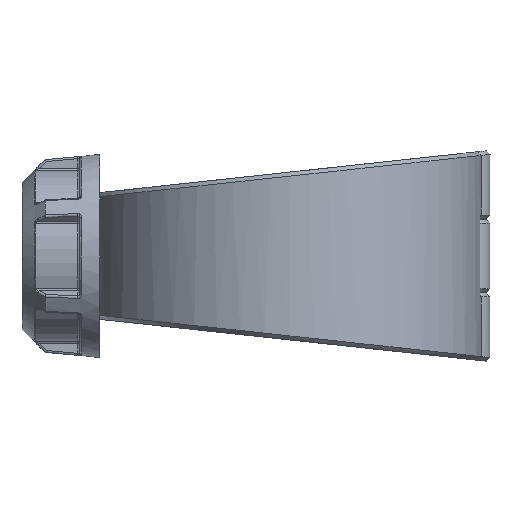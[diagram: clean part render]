
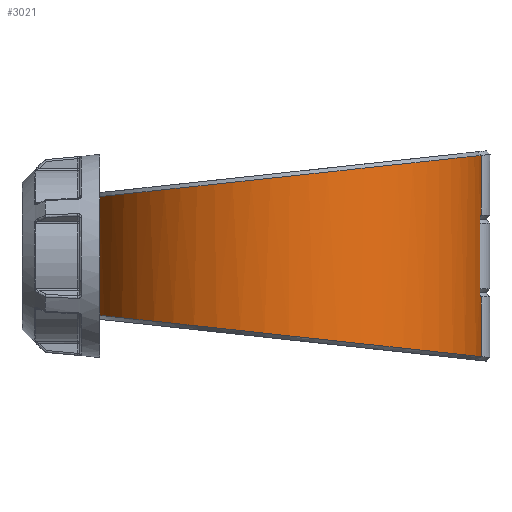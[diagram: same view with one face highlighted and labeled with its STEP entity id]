
A CAD part, left-side view. The second image highlights one B-rep face of the part: STEP entity #3021.
In plain terms, the highlighted cylindrical face has radius 98.5 mm (diameter 197 mm), a partial arc.
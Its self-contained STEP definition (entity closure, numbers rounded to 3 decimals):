
#212=FACE_OUTER_BOUND('',#416,.T.);
#416=EDGE_LOOP('',(#2055,#2056,#2057,#2058,#2059,#2060,#2061,#2062,#2063,
#2064,#2065,#2066));
#623=CIRCLE('',#3251,98.5);
#626=CIRCLE('',#3256,98.5);
#805=B_SPLINE_CURVE_WITH_KNOTS('',3,(#4512,#4513,#4514,#4515),
 .UNSPECIFIED.,.F.,.F.,(4,4),(-0.001,0.),.UNSPECIFIED.);
#806=B_SPLINE_CURVE_WITH_KNOTS('',3,(#4517,#4518,#4519,#4520),
 .UNSPECIFIED.,.F.,.F.,(4,4),(-3.051,-3.051),
 .UNSPECIFIED.);
#807=B_SPLINE_CURVE_WITH_KNOTS('',3,(#4521,#4522,#4523,#4524,#4525,#4526,
#4527,#4528,#4529,#4530),.UNSPECIFIED.,.F.,.F.,(4,1,1,1,1,1,1,4),(0.317,
0.649,1.051,1.453,1.855,2.257,
2.659,3.051),.UNSPECIFIED.);
#808=B_SPLINE_CURVE_WITH_KNOTS('',3,(#4532,#4533,#4534,#4535,#4536,#4537,
#4538,#4539,#4540,#4541),.UNSPECIFIED.,.F.,.F.,(4,1,1,1,1,1,1,4),(-3.051,
-2.659,-2.257,-1.855,-1.453,
-1.051,-0.649,-0.317),.UNSPECIFIED.);
#809=B_SPLINE_CURVE_WITH_KNOTS('',3,(#4543,#4544,#4545,#4546),
 .UNSPECIFIED.,.F.,.F.,(4,4),(3.051,3.051),
 .UNSPECIFIED.);
#810=B_SPLINE_CURVE_WITH_KNOTS('',3,(#4548,#4549,#4550,#4551),
 .UNSPECIFIED.,.F.,.F.,(4,4),(-0.36,-0.359),
 .UNSPECIFIED.);
#972=LINE('',#4391,#1093);
#979=LINE('',#4446,#1100);
#985=LINE('',#4510,#1106);
#986=LINE('',#4552,#1107);
#1093=VECTOR('',#3575,10.);
#1100=VECTOR('',#3592,10.);
#1106=VECTOR('',#3638,10.);
#1107=VECTOR('',#3639,10.);
#1216=VERTEX_POINT('',#4376);
#1217=VERTEX_POINT('',#4390);
#1229=VERTEX_POINT('',#4440);
#1230=VERTEX_POINT('',#4445);
#1236=VERTEX_POINT('',#4466);
#1239=VERTEX_POINT('',#4487);
#1243=VERTEX_POINT('',#4509);
#1244=VERTEX_POINT('',#4511);
#1245=VERTEX_POINT('',#4516);
#1246=VERTEX_POINT('',#4531);
#1247=VERTEX_POINT('',#4542);
#1248=VERTEX_POINT('',#4547);
#1510=EDGE_CURVE('',#1216,#1217,#972,.T.);
#1524=EDGE_CURVE('',#1229,#1230,#979,.T.);
#1537=EDGE_CURVE('',#1236,#1229,#623,.T.);
#1542=EDGE_CURVE('',#1230,#1239,#626,.T.);
#1548=EDGE_CURVE('',#1243,#1236,#985,.T.);
#1549=EDGE_CURVE('',#1244,#1243,#805,.T.);
#1550=EDGE_CURVE('',#1244,#1245,#806,.T.);
#1551=EDGE_CURVE('',#1217,#1245,#807,.T.);
#1552=EDGE_CURVE('',#1246,#1216,#808,.T.);
#1553=EDGE_CURVE('',#1246,#1247,#809,.T.);
#1554=EDGE_CURVE('',#1248,#1247,#810,.T.);
#1555=EDGE_CURVE('',#1239,#1248,#986,.T.);
#2055=ORIENTED_EDGE('',*,*,#1542,.F.);
#2056=ORIENTED_EDGE('',*,*,#1524,.F.);
#2057=ORIENTED_EDGE('',*,*,#1537,.F.);
#2058=ORIENTED_EDGE('',*,*,#1548,.F.);
#2059=ORIENTED_EDGE('',*,*,#1549,.F.);
#2060=ORIENTED_EDGE('',*,*,#1550,.T.);
#2061=ORIENTED_EDGE('',*,*,#1551,.F.);
#2062=ORIENTED_EDGE('',*,*,#1510,.F.);
#2063=ORIENTED_EDGE('',*,*,#1552,.F.);
#2064=ORIENTED_EDGE('',*,*,#1553,.T.);
#2065=ORIENTED_EDGE('',*,*,#1554,.F.);
#2066=ORIENTED_EDGE('',*,*,#1555,.F.);
#2962=CYLINDRICAL_SURFACE('',#3261,98.5);
#3021=ADVANCED_FACE('',(#212),#2962,.T.);
#3251=AXIS2_PLACEMENT_3D('',#4482,#3614,#3615);
#3256=AXIS2_PLACEMENT_3D('',#4496,#3624,#3625);
#3261=AXIS2_PLACEMENT_3D('',#4508,#3636,#3637);
#3575=DIRECTION('',(0.,0.,1.));
#3592=DIRECTION('',(0.,0.,-1.));
#3614=DIRECTION('center_axis',(0.,0.,-1.));
#3615=DIRECTION('ref_axis',(0.312,-0.95,0.));
#3624=DIRECTION('center_axis',(0.,0.,1.));
#3625=DIRECTION('ref_axis',(0.312,-0.95,0.));
#3636=DIRECTION('center_axis',(0.,0.,1.));
#3637=DIRECTION('ref_axis',(-0.312,0.95,0.));
#3638=DIRECTION('',(0.,0.,-1.));
#3639=DIRECTION('',(0.,0.,-1.));
#4376=CARTESIAN_POINT('',(-30.757,93.575,-29.799));
#4390=CARTESIAN_POINT('',(-30.757,93.575,29.799));
#4391=CARTESIAN_POINT('',(-30.757,93.575,0.));
#4440=CARTESIAN_POINT('',(-14.93,-97.362,20.55));
#4445=CARTESIAN_POINT('',(-14.93,-97.362,-20.55));
#4446=CARTESIAN_POINT('',(-14.93,-97.362,0.));
#4466=CARTESIAN_POINT('',(-8.863,-98.1,20.55));
#4482=CARTESIAN_POINT('Origin',(0.,0.,20.55));
#4487=CARTESIAN_POINT('',(-8.863,-98.1,-20.55));
#4496=CARTESIAN_POINT('Origin',(0.,0.,-20.55));
#4508=CARTESIAN_POINT('Origin',(0.,0.,0.));
#4509=CARTESIAN_POINT('',(-8.863,-98.1,50.523));
#4510=CARTESIAN_POINT('',(-8.863,-98.1,0.));
#4511=CARTESIAN_POINT('',(-8.853,-98.101,50.531));
#4512=CARTESIAN_POINT('Ctrl Pts',(-8.853,-98.101,50.531));
#4513=CARTESIAN_POINT('Ctrl Pts',(-8.856,-98.101,50.528));
#4514=CARTESIAN_POINT('Ctrl Pts',(-8.859,-98.101,50.526));
#4515=CARTESIAN_POINT('Ctrl Pts',(-8.863,-98.1,50.523));
#4516=CARTESIAN_POINT('',(-8.863,-98.1,50.531));
#4517=CARTESIAN_POINT('Ctrl Pts',(-8.853,-98.101,50.531));
#4518=CARTESIAN_POINT('Ctrl Pts',(-8.856,-98.101,50.531));
#4519=CARTESIAN_POINT('Ctrl Pts',(-8.859,-98.101,50.531));
#4520=CARTESIAN_POINT('Ctrl Pts',(-8.863,-98.1,50.531));
#4521=CARTESIAN_POINT('Ctrl Pts',(-30.756,93.573,29.799));
#4522=CARTESIAN_POINT('Ctrl Pts',(-41.144,90.152,30.168));
#4523=CARTESIAN_POINT('Ctrl Pts',(-62.833,78.767,31.397));
#4524=CARTESIAN_POINT('Ctrl Pts',(-87.948,50.074,34.496));
#4525=CARTESIAN_POINT('Ctrl Pts',(-100.516,11.646,38.649));
#4526=CARTESIAN_POINT('Ctrl Pts',(-97.068,-28.599,43.002));
#4527=CARTESIAN_POINT('Ctrl Pts',(-78.162,-64.258,46.863));
#4528=CARTESIAN_POINT('Ctrl Pts',(-47.105,-89.471,49.595));
#4529=CARTESIAN_POINT('Ctrl Pts',(-21.66,-96.943,50.405));
#4530=CARTESIAN_POINT('Ctrl Pts',(-8.863,-98.1,50.531));
#4531=CARTESIAN_POINT('',(-8.863,-98.1,-50.531));
#4532=CARTESIAN_POINT('Ctrl Pts',(-8.863,-98.1,-50.531));
#4533=CARTESIAN_POINT('Ctrl Pts',(-21.66,-96.943,-50.405));
#4534=CARTESIAN_POINT('Ctrl Pts',(-47.105,-89.471,-49.595));
#4535=CARTESIAN_POINT('Ctrl Pts',(-78.167,-64.26,-46.864));
#4536=CARTESIAN_POINT('Ctrl Pts',(-97.059,-28.597,-43.002));
#4537=CARTESIAN_POINT('Ctrl Pts',(-100.526,11.647,-38.649));
#4538=CARTESIAN_POINT('Ctrl Pts',(-87.943,50.072,-34.496));
#4539=CARTESIAN_POINT('Ctrl Pts',(-62.833,78.766,-31.397));
#4540=CARTESIAN_POINT('Ctrl Pts',(-41.145,90.152,-30.168));
#4541=CARTESIAN_POINT('Ctrl Pts',(-30.756,93.573,-29.799));
#4542=CARTESIAN_POINT('',(-8.853,-98.101,-50.531));
#4543=CARTESIAN_POINT('Ctrl Pts',(-8.863,-98.1,-50.531));
#4544=CARTESIAN_POINT('Ctrl Pts',(-8.859,-98.101,-50.531));
#4545=CARTESIAN_POINT('Ctrl Pts',(-8.856,-98.101,-50.531));
#4546=CARTESIAN_POINT('Ctrl Pts',(-8.853,-98.101,-50.531));
#4547=CARTESIAN_POINT('',(-8.863,-98.1,-50.523));
#4548=CARTESIAN_POINT('Ctrl Pts',(-8.862,-98.1,-50.523));
#4549=CARTESIAN_POINT('Ctrl Pts',(-8.859,-98.1,-50.526));
#4550=CARTESIAN_POINT('Ctrl Pts',(-8.856,-98.101,-50.528));
#4551=CARTESIAN_POINT('Ctrl Pts',(-8.852,-98.101,-50.531));
#4552=CARTESIAN_POINT('',(-8.863,-98.1,0.));
